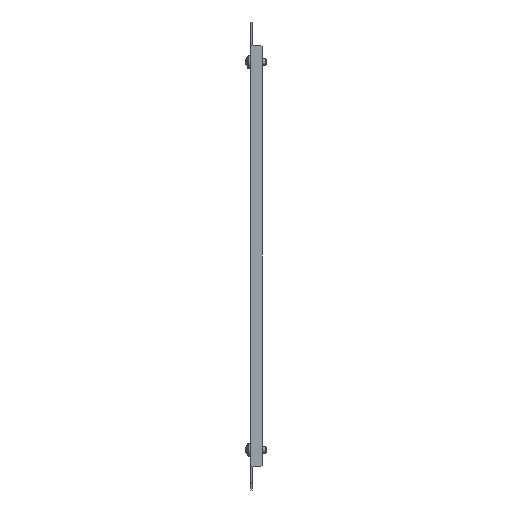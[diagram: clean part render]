
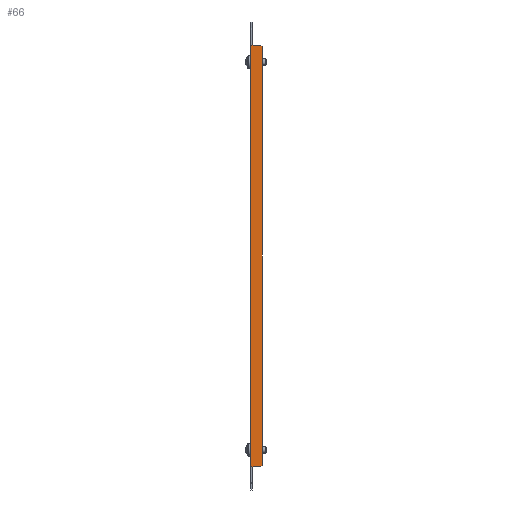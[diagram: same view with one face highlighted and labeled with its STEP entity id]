
A CAD part, left-side view. The second image highlights one B-rep face of the part: STEP entity #66.
In plain terms, the highlighted planar face has unit normal (-1, 0, 0) as drawn and (1, 0, 0) by its records, which use the part's own axes.
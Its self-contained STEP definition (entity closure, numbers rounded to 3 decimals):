
#52 = VECTOR ( 'NONE', #558, 1000. ) ;
#66 = ADVANCED_FACE ( 'NONE', ( #777 ), #598, .F. ) ;
#116 = EDGE_CURVE ( 'NONE', #1037, #1875, #2622, .T. ) ;
#142 = CARTESIAN_POINT ( 'NONE',  ( 84., 163., -8. ) ) ;
#179 = VERTEX_POINT ( 'NONE', #438 ) ;
#185 = CARTESIAN_POINT ( 'NONE',  ( 84., -162., -9. ) ) ;
#200 = EDGE_LOOP ( 'NONE', ( #2567, #527, #2916, #1813, #1521, #1691, #1750, #1266 ) ) ;
#286 = CARTESIAN_POINT ( 'NONE',  ( 84., -162., -9. ) ) ;
#297 = CARTESIAN_POINT ( 'NONE',  ( 84., -163., -2.1 ) ) ;
#304 = EDGE_CURVE ( 'NONE', #1150, #2656, #2957, .T. ) ;
#310 = LINE ( 'NONE', #1003, #1352 ) ;
#373 = CARTESIAN_POINT ( 'NONE',  ( 84., 0., 0. ) ) ;
#387 = DIRECTION ( 'NONE',  ( 0., 0., 1. ) ) ;
#438 = CARTESIAN_POINT ( 'NONE',  ( 84., -163., -8. ) ) ;
#469 = DIRECTION ( 'NONE',  ( 0., 1., 0. ) ) ;
#485 = VERTEX_POINT ( 'NONE', #2771 ) ;
#527 = ORIENTED_EDGE ( 'NONE', *, *, #2451, .T. ) ;
#558 = DIRECTION ( 'NONE',  ( 0., 0., 1. ) ) ;
#598 = PLANE ( 'NONE',  #1965 ) ;
#763 = VECTOR ( 'NONE', #469, 1000. ) ;
#777 = FACE_OUTER_BOUND ( 'NONE', #200, .T. ) ;
#779 = VECTOR ( 'NONE', #1164, 1000. ) ;
#834 = EDGE_CURVE ( 'NONE', #179, #1150, #1546, .T. ) ;
#857 = DIRECTION ( 'NONE',  ( 0., -1., 0. ) ) ;
#891 = CARTESIAN_POINT ( 'NONE',  ( 84., 162., -9. ) ) ;
#959 = LINE ( 'NONE', #2103, #779 ) ;
#1003 = CARTESIAN_POINT ( 'NONE',  ( 84., -163., 0. ) ) ;
#1007 = VECTOR ( 'NONE', #2202, 1000. ) ;
#1037 = VERTEX_POINT ( 'NONE', #1618 ) ;
#1055 = CARTESIAN_POINT ( 'NONE',  ( 84., -163., 0. ) ) ;
#1150 = VERTEX_POINT ( 'NONE', #286 ) ;
#1164 = DIRECTION ( 'NONE',  ( 0., 0., 1. ) ) ;
#1253 = LINE ( 'NONE', #142, #2695 ) ;
#1266 = ORIENTED_EDGE ( 'NONE', *, *, #834, .T. ) ;
#1268 = DIRECTION ( 'NONE',  ( 0., 0.707, 0.707 ) ) ;
#1341 = LINE ( 'NONE', #1747, #2025 ) ;
#1352 = VECTOR ( 'NONE', #2225, 1000. ) ;
#1362 = EDGE_CURVE ( 'NONE', #1592, #2595, #2019, .T. ) ;
#1500 = DIRECTION ( 'NONE',  ( -1., 0., 0. ) ) ;
#1521 = ORIENTED_EDGE ( 'NONE', *, *, #2625, .T. ) ;
#1546 = LINE ( 'NONE', #185, #1007 ) ;
#1573 = CARTESIAN_POINT ( 'NONE',  ( 84., 0., -9. ) ) ;
#1592 = VERTEX_POINT ( 'NONE', #297 ) ;
#1618 = CARTESIAN_POINT ( 'NONE',  ( 84., 163., -2.1 ) ) ;
#1691 = ORIENTED_EDGE ( 'NONE', *, *, #1362, .F. ) ;
#1747 = CARTESIAN_POINT ( 'NONE',  ( 84., 0., 0. ) ) ;
#1750 = ORIENTED_EDGE ( 'NONE', *, *, #2038, .T. ) ;
#1813 = ORIENTED_EDGE ( 'NONE', *, *, #116, .T. ) ;
#1875 = VERTEX_POINT ( 'NONE', #2922 ) ;
#1965 = AXIS2_PLACEMENT_3D ( 'NONE', #373, #1500, #2160 ) ;
#1969 = VECTOR ( 'NONE', #387, 1000. ) ;
#2019 = LINE ( 'NONE', #2247, #1969 ) ;
#2025 = VECTOR ( 'NONE', #857, 1000. ) ;
#2038 = EDGE_CURVE ( 'NONE', #1592, #179, #310, .T. ) ;
#2103 = CARTESIAN_POINT ( 'NONE',  ( 84., 163., 0. ) ) ;
#2160 = DIRECTION ( 'NONE',  ( 0., 0., 1. ) ) ;
#2202 = DIRECTION ( 'NONE',  ( 0., 0.707, -0.707 ) ) ;
#2225 = DIRECTION ( 'NONE',  ( 0., 0., -1. ) ) ;
#2247 = CARTESIAN_POINT ( 'NONE',  ( 84., -163., 0. ) ) ;
#2451 = EDGE_CURVE ( 'NONE', #2656, #485, #1253, .T. ) ;
#2567 = ORIENTED_EDGE ( 'NONE', *, *, #304, .T. ) ;
#2595 = VERTEX_POINT ( 'NONE', #1055 ) ;
#2610 = CARTESIAN_POINT ( 'NONE',  ( 84., 163., -2.1 ) ) ;
#2622 = LINE ( 'NONE', #2610, #52 ) ;
#2625 = EDGE_CURVE ( 'NONE', #1875, #2595, #1341, .T. ) ;
#2656 = VERTEX_POINT ( 'NONE', #891 ) ;
#2695 = VECTOR ( 'NONE', #1268, 1000. ) ;
#2771 = CARTESIAN_POINT ( 'NONE',  ( 84., 163., -8. ) ) ;
#2794 = EDGE_CURVE ( 'NONE', #485, #1037, #959, .T. ) ;
#2916 = ORIENTED_EDGE ( 'NONE', *, *, #2794, .T. ) ;
#2922 = CARTESIAN_POINT ( 'NONE',  ( 84., 163., 0. ) ) ;
#2957 = LINE ( 'NONE', #1573, #763 ) ;
